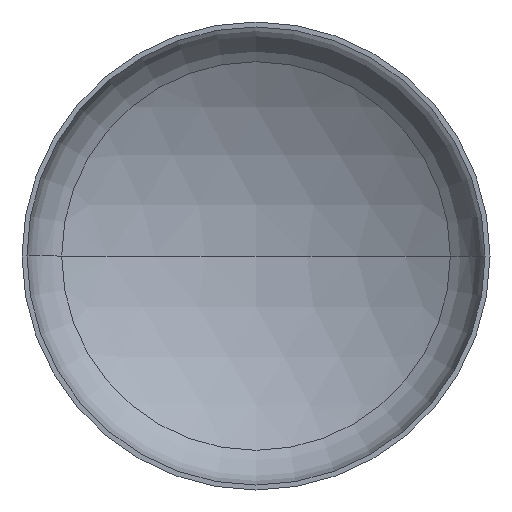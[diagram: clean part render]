
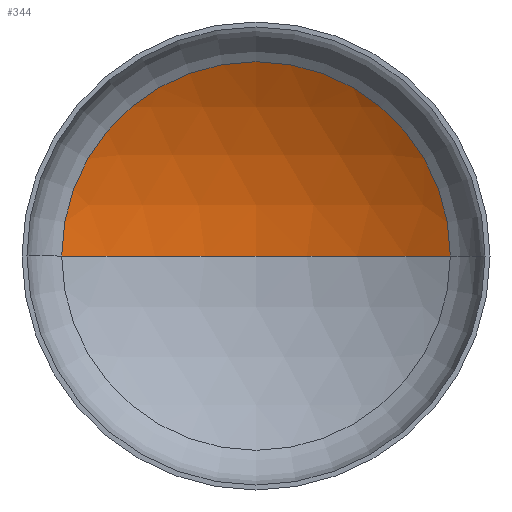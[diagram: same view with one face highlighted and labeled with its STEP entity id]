
A CAD part, front view. The second image highlights one B-rep face of the part: STEP entity #344.
In plain terms, the highlighted spherical face has radius 5600 mm.
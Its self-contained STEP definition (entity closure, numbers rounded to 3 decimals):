
#8 = CARTESIAN_POINT ( 'NONE',  ( 0., 1043.139, 0. ) ) ;
#18 = AXIS2_PLACEMENT_3D ( 'NONE', #153, #142, #338 ) ;
#20 = ORIENTED_EDGE ( 'NONE', *, *, #189, .F. ) ;
#38 = DIRECTION ( 'NONE',  ( 0., 0., -1. ) ) ;
#47 = VERTEX_POINT ( 'NONE', #352 ) ;
#74 = EDGE_LOOP ( 'NONE', ( #20, #104, #99 ) ) ;
#98 = VERTEX_POINT ( 'NONE', #236 ) ;
#99 = ORIENTED_EDGE ( 'NONE', *, *, #184, .T. ) ;
#104 = ORIENTED_EDGE ( 'NONE', *, *, #185, .T. ) ;
#110 = SPHERICAL_SURFACE ( 'NONE', #18, 5600. ) ;
#112 = AXIS2_PLACEMENT_3D ( 'NONE', #200, #217, #214 ) ;
#117 = AXIS2_PLACEMENT_3D ( 'NONE', #263, #38, #311 ) ;
#119 = AXIS2_PLACEMENT_3D ( 'NONE', #8, #394, #120 ) ;
#120 = DIRECTION ( 'NONE',  ( 1., 0., 0. ) ) ;
#142 = DIRECTION ( 'NONE',  ( 0., 0., -1. ) ) ;
#153 = CARTESIAN_POINT ( 'NONE',  ( 0., -3743.507, 0. ) ) ;
#155 = CIRCLE ( 'NONE', #117, 5600. ) ;
#184 = EDGE_CURVE ( 'NONE', #47, #98, #239, .T. ) ;
#185 = EDGE_CURVE ( 'NONE', #327, #47, #155, .T. ) ;
#189 = EDGE_CURVE ( 'NONE', #327, #98, #289, .T. ) ;
#200 = CARTESIAN_POINT ( 'NONE',  ( 0., -3743.507, 0. ) ) ;
#214 = DIRECTION ( 'NONE',  ( 1., 0., 0. ) ) ;
#217 = DIRECTION ( 'NONE',  ( 0., 0., 1. ) ) ;
#222 = CARTESIAN_POINT ( 'NONE',  ( 0., 1856.493, 0. ) ) ;
#236 = CARTESIAN_POINT ( 'NONE',  ( -2906.549, 1043.139, 0. ) ) ;
#239 = CIRCLE ( 'NONE', #119, 2906.549 ) ;
#263 = CARTESIAN_POINT ( 'NONE',  ( 0., -3743.507, 0. ) ) ;
#289 = CIRCLE ( 'NONE', #112, 5600. ) ;
#311 = DIRECTION ( 'NONE',  ( -1., 0., 0. ) ) ;
#327 = VERTEX_POINT ( 'NONE', #222 ) ;
#338 = DIRECTION ( 'NONE',  ( -1., 0., 0. ) ) ;
#344 = ADVANCED_FACE ( 'NONE', ( #383 ), #110, .F. ) ;
#352 = CARTESIAN_POINT ( 'NONE',  ( 2906.549, 1043.139, 0. ) ) ;
#383 = FACE_OUTER_BOUND ( 'NONE', #74, .T. ) ;
#394 = DIRECTION ( 'NONE',  ( 0., -1., 0. ) ) ;
